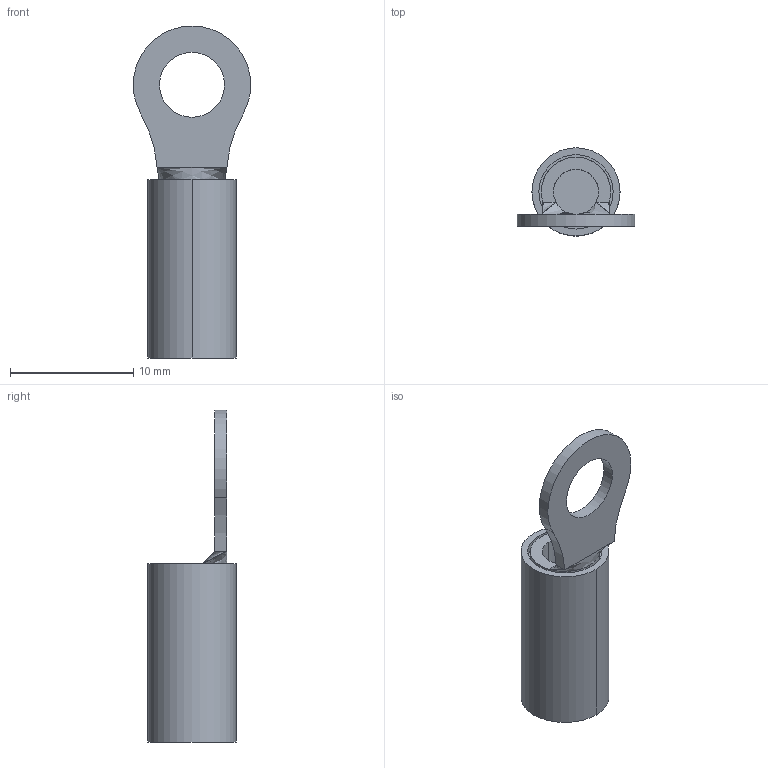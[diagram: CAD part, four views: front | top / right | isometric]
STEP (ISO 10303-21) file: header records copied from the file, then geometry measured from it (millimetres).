
FILE_DESCRIPTION((''),'2;1');
FILE_NAME('C-130171','2010-02-08T',('workeradm'),(''),'PRO/ENGINEER BY PARAMETRIC TECHNOLOGY CORPORATION, 2008380','PRO/ENGINEER BY PARAMETRIC TECHNOLOGY CORPORATION, 2008380','');
FILE_SCHEMA(('AUTOMOTIVE_DESIGN { 1 0 10303 214 1 1 1 1 }'));
Length unit declared in the file: millimetre
Products named in the file (1): C-130171
Bounding box: 9.52 x 7.14 x 26.89 mm (x, y, z)
Volume: 548.2 mm3; surface area: 701.1 mm2
Topology: 1 solids, 1 shells, 27 faces, 61 edges, 39 vertices
Faces by surface type: cylinder 15, plane 8, bspline 4
Entity records: 917 total; most frequent: CARTESIAN_POINT 244, DIRECTION 141, ORIENTED_EDGE 122, EDGE_CURVE 61, AXIS2_PLACEMENT_3D 57, VERTEX_POINT 39, CIRCLE 34, EDGE_LOOP 32
